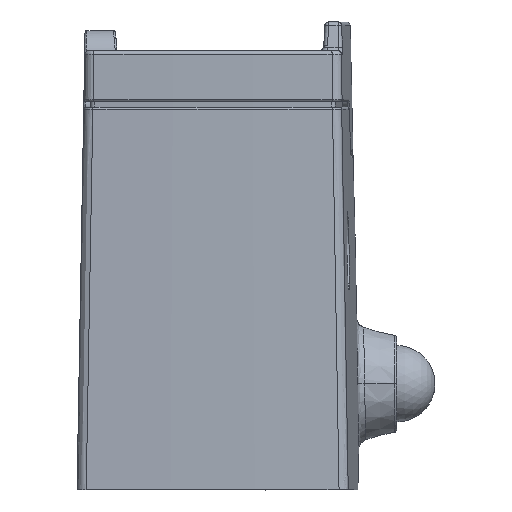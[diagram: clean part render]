
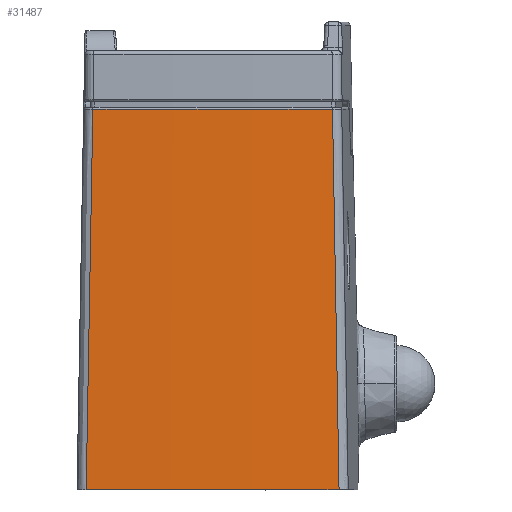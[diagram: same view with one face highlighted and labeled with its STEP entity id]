
A CAD part, front view. The second image highlights one B-rep face of the part: STEP entity #31487.
In plain terms, the highlighted conical face has half-angle 0.5 degrees and reference radius 317.526 mm.
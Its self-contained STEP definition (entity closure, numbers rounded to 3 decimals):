
#1778=CARTESIAN_POINT('',(-13.844,-67.398,0.));
#1794=CARTESIAN_POINT('',(12.576,-67.451,
0.));
#6600=CARTESIAN_POINT('',(-13.147,-67.08,
39.802));
#6602=CARTESIAN_POINT('',(-13.147,-67.08,
39.802));
#6603=CARTESIAN_POINT('',(-13.224,-67.116,
35.383));
#6604=CARTESIAN_POINT('',(-13.379,-67.186,
26.542));
#6605=CARTESIAN_POINT('',(-13.611,-67.292,
13.275));
#6606=CARTESIAN_POINT('',(-13.766,-67.363,
4.426));
#6607=CARTESIAN_POINT('',(-13.844,-67.398,0.));
#6616=CARTESIAN_POINT('',(0.,250.,39.802));
#6617=DIRECTION('',(0.,0.,1.));
#6618=DIRECTION('',(-0.041,-0.999,0.));
#6619=AXIS2_PLACEMENT_3D('',#6616,#6617,#6618);
#6621=CARTESIAN_POINT('',(12.576,-67.451,
0.));
#6622=CARTESIAN_POINT('',(12.522,-67.415,4.422));
#6623=CARTESIAN_POINT('',(12.4,-67.342,13.265));
#6624=CARTESIAN_POINT('',(12.171,-67.235,26.533));
#6625=CARTESIAN_POINT('',(11.99,-67.165,35.378));
#6626=CARTESIAN_POINT('',(11.892,-67.13,39.802));
#6628=CARTESIAN_POINT('',(0.,250.,0.));
#6629=DIRECTION('',(0.,0.,-1.));
#6630=DIRECTION('',(0.04,-0.999,0.));
#6631=AXIS2_PLACEMENT_3D('',#6628,#6629,#6630);
#20374=VERTEX_POINT('',#1794);
#20379=VERTEX_POINT('',#1778);
#21353=VERTEX_POINT('',#6600);
#21356=CARTESIAN_POINT('',(11.892,-67.13,
39.802));
#21357=VERTEX_POINT('',#21356);
#31475=CARTESIAN_POINT('',(0.,250.,19.901));
#31476=DIRECTION('',(0.,0.,-1.));
#31477=DIRECTION('',(-0.087,-0.996,0.));
#31478=AXIS2_PLACEMENT_3D('',#31475,#31476,#31477);
#31479=CONICAL_SURFACE('',#31478,317.526,0.5);
#31480=ORIENTED_EDGE('',*,*,#26848,.T.);
#31482=ORIENTED_EDGE('',*,*,#31481,.F.);
#31483=ORIENTED_EDGE('',*,*,#25372,.T.);
#31484=ORIENTED_EDGE('',*,*,#31468,.F.);
#31485=EDGE_LOOP('',(#31480,#31482,#31483,#31484));
#31486=FACE_OUTER_BOUND('',#31485,.F.);
#6608=B_SPLINE_CURVE_WITH_KNOTS('',3,(#6602,#6603,#6604,#6605,#6606,#6607),
.UNSPECIFIED.,.F.,.F.,(4,1,1,4),(0.,0.333,0.667,1.),
.UNSPECIFIED.);
#6620=CIRCLE('',#6619,317.353);
#6627=B_SPLINE_CURVE_WITH_KNOTS('',3,(#6621,#6622,#6623,#6624,#6625,#6626),
.UNSPECIFIED.,.F.,.F.,(4,1,1,4),(0.,0.333,0.667,1.),
.UNSPECIFIED.);
#6632=CIRCLE('',#6631,317.7);
#25372=EDGE_CURVE('',#20374,#20379,#6632,.T.);
#26848=EDGE_CURVE('',#21353,#21357,#6620,.T.);
#31468=EDGE_CURVE('',#21353,#20379,#6608,.T.);
#31481=EDGE_CURVE('',#20374,#21357,#6627,.T.);
#31487=ADVANCED_FACE('',(#31486),#31479,.T.);
